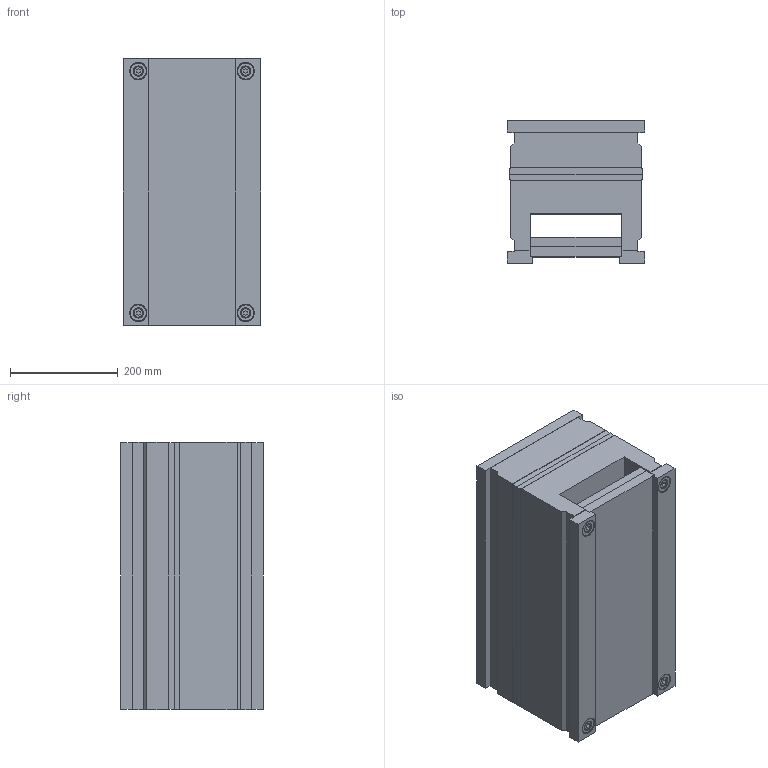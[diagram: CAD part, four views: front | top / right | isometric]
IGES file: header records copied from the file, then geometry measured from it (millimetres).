
Start section: SolidWorks IGES FILE using analytic representation for surfaces
Global section: file name: C:\Documents and Settings\K.P\My Documents\Mechanical\ALMO\CATL_EUR\RECT\2466.IGS; native system: SolidWorks 2001Plus by SolidWorks Corporation; preprocessor: Version 5.3; author: Pavel; date: 020709.092442; units: millimetre
Bounding box: 255 x 266 x 498 mm (x, y, z)
Surface area: 1556961.7 mm2 (no closed solid volume)
Topology: 0 solids, 0 shells, 706 faces, 11944 edges, 11936 vertices
Faces by surface type: revolution 452, bspline 254
